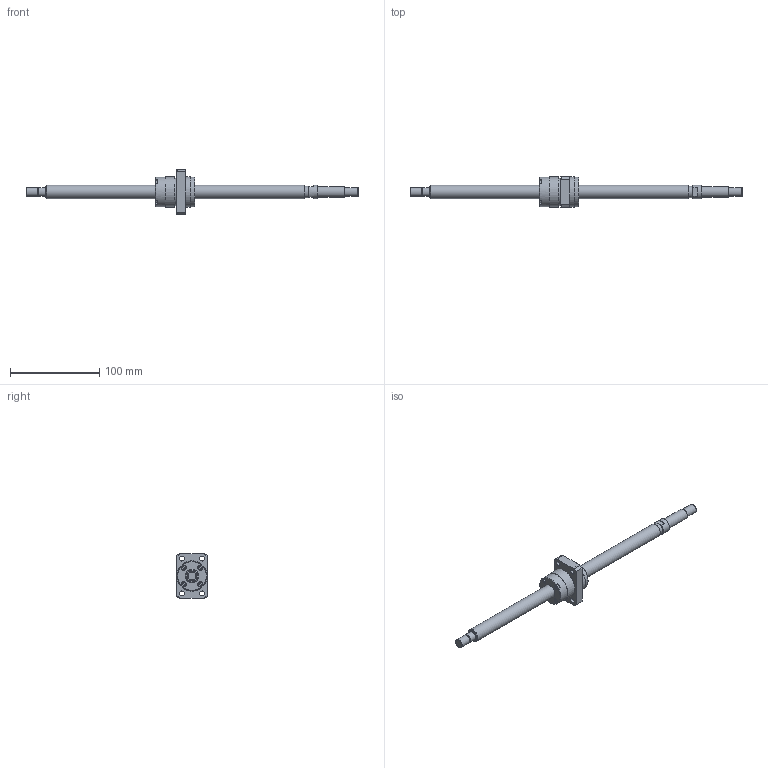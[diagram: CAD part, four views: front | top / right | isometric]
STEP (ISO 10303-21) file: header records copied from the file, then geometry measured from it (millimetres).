
FILE_DESCRIPTION(/* description */ ('STEP AP203'),/* implementation_level */ '2;1');
FILE_NAME(/* name */ 'BNK1510-5.6G0+371LC5Y(166.50)',/* time_stamp */ '2024-07-05T11:05:31+02:00',/* author */ ('License CC BY-ND 4.0'),/* organization */ ('CADENAS'),/* preprocessor_version */ 'ST-DEVELOPER v19.3',/* originating_system */ 'PARTsolutions',/* authorisation */ ' ');
FILE_SCHEMA (('CONFIG_CONTROL_DESIGN'));
Length unit declared in the file: millimetre
Products named in the file (3): BNK1510-5.6G0+371LC5Y(166.50); BNK 1510-5.6G0+371LC5Y Shaft; BNK 1510-5.6G0+371LC5Y0 Nut
Assembly tree (2 placements, depth 2):
  BNK1510-5.6G0+371LC5Y(166.50)
    BNK 1510-5.6G0+371LC5Y Shaft
    BNK 1510-5.6G0+371LC5Y0 Nut
Bounding box: 371 x 34 x 50 mm (x, y, z)
Volume: 96163.8 mm3; surface area: 28771.6 mm2
Topology: 2 solids, 2 shells, 137 faces, 313 edges, 202 vertices
Faces by surface type: plane 76, cylinder 35, cone 20, torus 6
Full cylindrical faces by diameter (mm): 5.188 x1, 5.5 x8, 9.5 x4, 9.6 x1, 10 x3, 12 x1, 13 x1, 15 x3, 30.6 x1, 33 x2, 34 x2
Entity records: 3729 total; most frequent: CARTESIAN_POINT 677, DIRECTION 632, ORIENTED_EDGE 534, EDGE_CURVE 267, AXIS2_PLACEMENT_3D 249, FACE_BOUND 211, EDGE_LOOP 210, VERTEX_POINT 198
